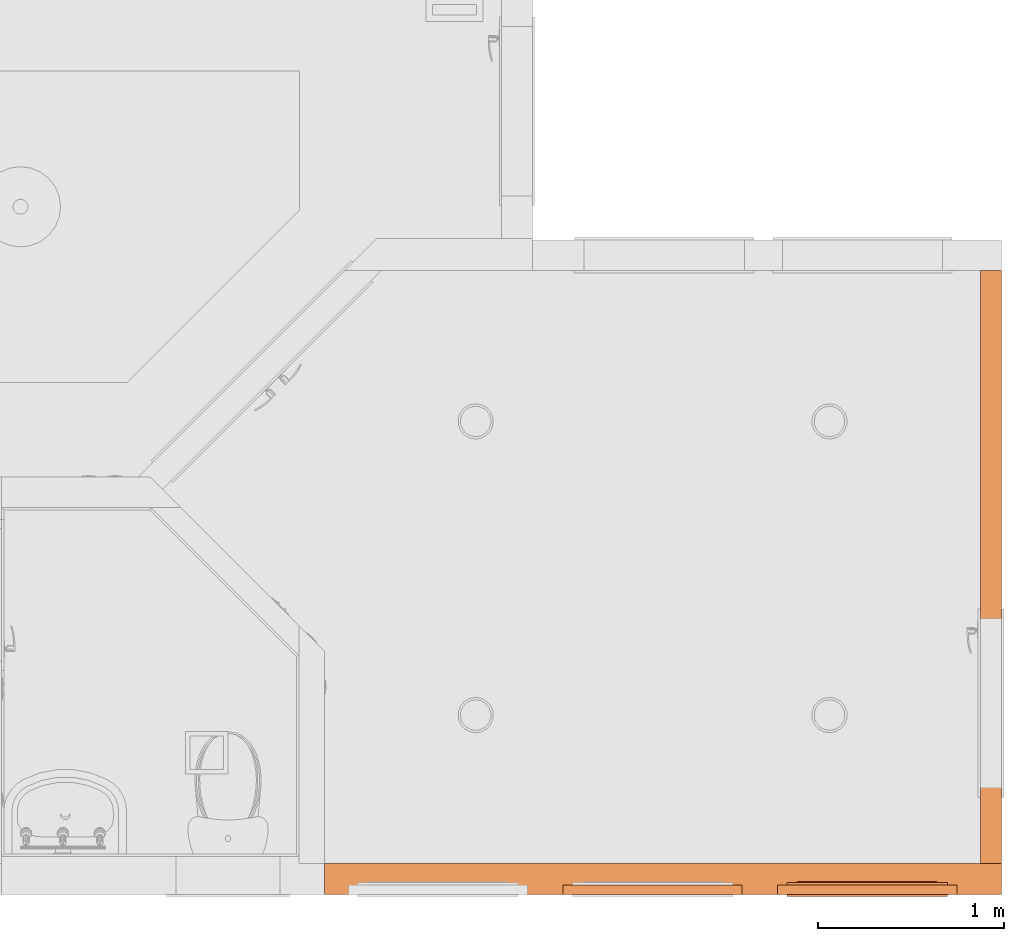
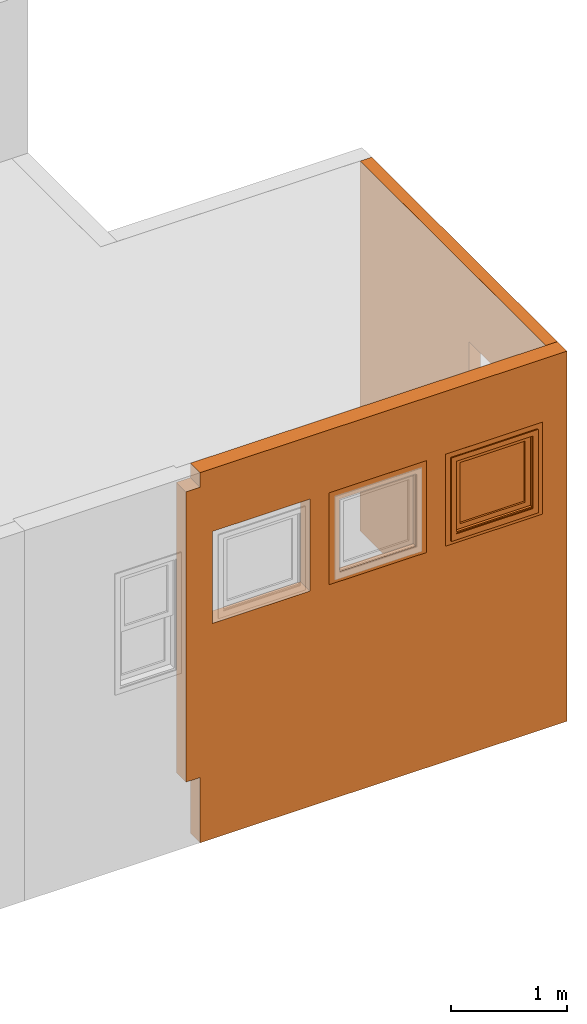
# One storey, part 99 of 103: 5 proxies.
"""IFC2X3 building model written with IfcOpenShell, lengths in inches."""

from ifc_helpers import new_model, entity, si_unit, converted_unit, derived_unit, money_unit, direction, frame, origin_with_axes, place, context, subcontext, project, spatial, faceted_brep, material, type_object, element, save


model = new_model("IFC2X3")

# Units and contexts
model_context = context("Model", 3, precision=0.00039370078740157, world=origin_with_axes(), true_north=direction((0.0, 1.0)))
plan_context = context("Plan", 3, precision=0.00039370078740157, world=origin_with_axes(), true_north=direction((0.0, 1.0)))
body_context = subcontext(model_context, "Body", "Model", "MODEL_VIEW")
ifc_project = project(units=[converted_unit("LENGTHUNIT", "INCH", entity("IfcPositiveLengthMeasure", 0.0254), si_unit("LENGTHUNIT", "METRE"), dimensions=[1, 0, 0, 0, 0, 0, 0]), converted_unit("AREAUNIT", "SQUARE_FOOT", entity("IfcPositiveLengthMeasure", 0.09290304), si_unit("AREAUNIT", "SQUARE_METRE"), dimensions=[2, 0, 0, 0, 0, 0, 0]), si_unit("PLANEANGLEUNIT", "RADIAN"), si_unit("SOLIDANGLEUNIT", "STERADIAN"), money_unit("USD"), converted_unit("TIMEUNIT", "Year", entity("IfcTimeMeasure", 31557600.0), si_unit("TIMEUNIT", "SECOND"), dimensions=[0, 0, 1, 0, 0, 0, 0]), si_unit("MASSUNIT", "GRAM", prefix="KILO"), si_unit("THERMODYNAMICTEMPERATUREUNIT", "DEGREE_CELSIUS"), si_unit("LUMINOUSINTENSITYUNIT", "LUMEN"), si_unit("ENERGYUNIT", "JOULE", prefix="MEGA"), derived_unit("SPECIFICHEATCAPACITYUNIT", [(si_unit("ENERGYUNIT", "JOULE"), 1), (si_unit("MASSUNIT", "GRAM", prefix="KILO"), -1), (si_unit("THERMODYNAMICTEMPERATUREUNIT", "KELVIN"), -1)])], contexts=[model_context, plan_context])

# Site, building, storey
site_placement = place(None, origin_with_axes())
site = spatial("IfcSite", under=ifc_project, at=site_placement, Name="Site", CompositionType="ELEMENT")
building_placement = place(site_placement, origin_with_axes())
building = spatial("IfcBuilding", under=site, at=building_placement, Name="Building", CompositionType="ELEMENT")
storey_placement = place(building_placement, frame((0.0, 0.0, 127.9999999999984), z_axis=(0.0, 0.0, 1.0), x_axis=(1.0, 0.0, 0.0)))
storey = spatial("IfcBuildingStorey", under=building, at=storey_placement, Name="Second Floor", CompositionType="ELEMENT", Elevation=128.0)

# Proxies
ifc_material = material(Name="Generic - Structural")
building_element_proxy_type_1 = type_object("IfcBuildingElementProxyType", Name="Generic - Structural 2\"", PredefinedType="NOTDEFINED")
proxy_1_placement = place(storey_placement, frame((472.4999994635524, 1.999999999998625, 61.99999999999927), z_axis=(0.0, 0.0, 1.0), x_axis=(-1.0, 0.0, 0.0)))
element("IfcBuildingElementProxy", 1, at=proxy_1_placement, inside=storey, type_object=building_element_proxy_type_1, material=ifc_material, Name="SW - 076", context=body_context, shape_type="Brep", body=[
    faceted_brep([(37.99999946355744, 1.999999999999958, 37.99999999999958), (37.99999946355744, 1.999999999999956, 0.0), (0.0, 1.999999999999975, 0.0), (0.0, 1.999999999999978, 37.99999999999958), (33.99999999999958, 1.999999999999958, 3.999999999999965), (33.99999999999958, 1.99999999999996, 33.99999999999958), (3.99999999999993, 1.999999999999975, 33.99999999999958), (3.99999999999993, 1.999999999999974, 3.999999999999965), (37.99999946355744, 0.0, 37.99999999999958), (37.99999946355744, 0.0, 0.0), (0.0, 0.0, 0.0), (0.0, 0.0, 37.99999999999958), (33.99999999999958, 0.0, 3.999999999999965), (33.99999999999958, 0.0, 33.99999999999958), (3.99999999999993, 0.0, 33.99999999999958), (3.99999999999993, 0.0, 3.999999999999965)], [[[0, 1, 2, 3], [4, 5, 6, 7]], [[8, 9, 1, 0]], [[1, 9, 10, 2]], [[11, 3, 2, 10]], [[8, 0, 3, 11]], [[12, 13, 5, 4]], [[13, 14, 6, 5]], [[14, 15, 7, 6]], [[15, 12, 4, 7]], [[9, 8, 11, 10], [12, 15, 14, 13]]]),
])
proxy_2_placement = place(storey_placement, frame((517.999999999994, 1.999999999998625, 61.99999999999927), z_axis=(0.0, 0.0, 1.0), x_axis=(-1.0, 0.0, 0.0)))
element("IfcBuildingElementProxy", 2, at=proxy_2_placement, inside=storey, type_object=building_element_proxy_type_1, material=ifc_material, Name="SW - 076", context=body_context, shape_type="Brep", body=[
    faceted_brep([(37.99999946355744, 1.999999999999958, 37.99999999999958), (37.99999946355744, 1.999999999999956, 0.0), (0.0, 1.999999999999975, 0.0), (0.0, 1.999999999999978, 37.99999999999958), (33.99999999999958, 1.999999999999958, 3.999999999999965), (33.99999999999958, 1.99999999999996, 33.99999999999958), (3.99999999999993, 1.999999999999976, 33.99999999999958), (3.99999999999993, 1.999999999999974, 3.999999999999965), (37.99999946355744, 0.0, 37.99999999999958), (37.99999946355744, 0.0, 0.0), (0.0, 0.0, 0.0), (0.0, 0.0, 37.99999999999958), (33.99999999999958, 0.0, 3.999999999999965), (33.99999999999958, 0.0, 33.99999999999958), (3.99999999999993, 0.0, 33.99999999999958), (3.99999999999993, 0.0, 3.999999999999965)], [[[0, 1, 2, 3], [4, 5, 6, 7]], [[8, 9, 1, 0]], [[1, 9, 10, 2]], [[11, 3, 2, 10]], [[8, 0, 3, 11]], [[12, 13, 5, 4]], [[13, 14, 6, 5]], [[14, 15, 7, 6]], [[15, 12, 4, 7]], [[9, 8, 11, 10], [12, 15, 14, 13]]]),
])
building_element_proxy_type_2 = type_object("IfcBuildingElementProxyType", Name="Generic - Structural 6 1/2\"", PredefinedType="NOTDEFINED")
proxy_3_placement = place(storey_placement, frame((522.9999999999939, 6.499999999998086, -26.99999999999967), z_axis=(0.0, 0.0, 1.0), x_axis=(-1.0, 0.0, 0.0)))
element("IfcBuildingElementProxy", 3, at=proxy_3_placement, inside=storey, type_object=building_element_proxy_type_2, material=ifc_material, Name="SW - 076", context=body_context, shape_type="Brep", body=[
    faceted_brep([(-4.500000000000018, 6.49999999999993, 152.9999999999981), (138.999999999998, 6.499999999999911, 152.9999999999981), (138.999999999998, 6.499999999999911, 146.9999999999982), (144.4999999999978, 6.49999999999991, 146.9999999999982), (144.4999999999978, 6.499999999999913, 26.99999999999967), (138.999999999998, 6.499999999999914, 26.99999999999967), (138.999999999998, 6.499999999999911, 0.0), (-4.500000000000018, 6.49999999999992, 0.0), (4.999999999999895, 6.499999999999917, 88.99999999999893), (42.9999999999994, 6.499999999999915, 88.99999999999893), (42.9999999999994, 6.499999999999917, 126.9999999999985), (4.999999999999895, 6.499999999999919, 126.9999999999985), (50.49999999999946, 6.499999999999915, 88.99999999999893), (88.49999999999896, 6.49999999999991, 88.99999999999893), (88.49999999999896, 6.499999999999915, 126.9999999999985), (50.49999999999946, 6.499999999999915, 126.9999999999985), (95.99999999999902, 6.49999999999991, 88.99999999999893), (133.9999999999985, 6.499999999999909, 88.99999999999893), (133.9999999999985, 6.49999999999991, 126.9999999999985), (95.99999999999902, 6.499999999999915, 126.9999999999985), (-4.500000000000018, 0.0, 152.9999999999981), (138.999999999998, 0.0, 152.9999999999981), (138.999999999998, 0.0, 146.9999999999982), (144.4999999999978, 0.0, 146.9999999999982), (144.4999999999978, 0.0, 26.99999999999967), (138.999999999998, 0.0, 26.99999999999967), (138.999999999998, 0.0, 0.0), (-4.500000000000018, 0.0, 0.0), (4.999999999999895, 0.0, 88.99999999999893), (42.9999999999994, 0.0, 88.99999999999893), (42.9999999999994, 0.0, 126.9999999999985), (4.999999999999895, 0.0, 126.9999999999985), (50.49999999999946, 0.0, 88.99999999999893), (88.49999999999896, 0.0, 88.99999999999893), (88.49999999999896, 0.0, 126.9999999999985), (50.49999999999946, 0.0, 126.9999999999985), (95.99999999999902, 0.0, 88.99999999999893), (133.9999999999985, 0.0, 88.99999999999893), (133.9999999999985, 0.0, 126.9999999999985), (95.99999999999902, 0.0, 126.9999999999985)], [[[0, 1, 2, 3, 4, 5, 6, 7], [8, 9, 10, 11], [12, 13, 14, 15], [16, 17, 18, 19]], [[0, 20, 21, 1]], [[22, 2, 1, 21]], [[3, 2, 22, 23]], [[24, 4, 3, 23]], [[5, 4, 24, 25]], [[6, 5, 25, 26]], [[27, 7, 6, 26]], [[7, 27, 20, 0]], [[8, 28, 29, 9]], [[9, 29, 30, 10]], [[10, 30, 31, 11]], [[11, 31, 28, 8]], [[12, 32, 33, 13]], [[13, 33, 34, 14]], [[14, 34, 35, 15]], [[15, 35, 32, 12]], [[16, 36, 37, 17]], [[17, 37, 38, 18]], [[18, 38, 39, 19]], [[19, 39, 36, 16]], [[25, 24, 23, 22, 21, 20, 27, 26], [30, 29, 28, 31], [34, 33, 32, 35], [38, 37, 36, 39]]]),
])
building_element_proxy_type_3 = type_object("IfcBuildingElementProxyType", Name="Generic - Structural 4 1/2\"", PredefinedType="NOTDEFINED")
proxy_4_placement = place(storey_placement, frame((522.9999999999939, 132.2499999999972, -26.99999999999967), z_axis=(0.0, 0.0, 1.0), x_axis=(0.0, -1.0, 0.0)))
element("IfcBuildingElementProxy", 4, at=proxy_4_placement, inside=storey, type_object=building_element_proxy_type_3, material=ifc_material, Name="SW - 075", context=body_context, shape_type="Brep", body=[
    faceted_brep([(125.7499999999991, 0.0, 0.0), (125.7499999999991, 0.0, 152.9999999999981), (0.0, 0.0, 152.9999999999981), (0.0, 0.0, 0.0), (109.7499999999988, 0.0, 26.99999999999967), (73.7499999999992, 0.0, 26.99999999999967), (73.7499999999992, 0.0, 122.9999999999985), (109.7499999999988, 0.0, 122.9999999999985), (125.7499999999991, 4.499999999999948, 0.0), (125.7499999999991, 4.499999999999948, 152.9999999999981), (0.0, 4.499999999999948, 152.9999999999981), (0.0, 4.499999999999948, 0.0), (109.7499999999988, 4.499999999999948, 26.99999999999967), (73.7499999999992, 4.499999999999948, 26.99999999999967), (73.7499999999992, 4.499999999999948, 122.9999999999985), (109.7499999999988, 4.499999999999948, 122.9999999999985)], [[[0, 1, 2, 3], [4, 5, 6, 7]], [[8, 9, 1, 0]], [[1, 9, 10, 2]], [[2, 10, 11, 3]], [[8, 0, 3, 11]], [[12, 13, 5, 4]], [[13, 14, 6, 5]], [[14, 15, 7, 6]], [[15, 12, 4, 7]], [[9, 8, 11, 10], [12, 15, 14, 13]]]),
])
building_element_proxy_type_4 = type_object("IfcBuildingElementProxyType", Name="W1 Casement", PredefinedType="NOTDEFINED")
proxy_5_placement = place(storey_placement, frame((513.999999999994, 1.999999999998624, 65.99999999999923), z_axis=(0.0, 0.0, 1.0), x_axis=(-1.0, 0.0, 0.0)))
element("IfcBuildingElementProxy", 5, at=proxy_5_placement, inside=storey, type_object=building_element_proxy_type_4, Name="WD - 001", context=body_context, shape_type="Brep", body=[
    faceted_brep([(-2.0, 2.499999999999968, -2.499999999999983), (0.0, 2.499999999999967, 0.0), (0.0, 1.999999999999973, 0.0), (-2.0, 1.999999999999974, -2.499999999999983), (-2.0, 2.499999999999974, 31.99999999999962), (0.0, 2.499999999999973, 29.99999999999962), (0.0, 1.999999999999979, 29.99999999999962), (-2.0, 1.99999999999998, 31.99999999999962)], [[[0, 1, 2, 3]], [[0, 4, 5, 1]], [[1, 5, 6, 2]], [[3, 2, 6, 7]], [[4, 0, 3, 7]], [[5, 4, 7, 6]]]),
    faceted_brep([(31.99999999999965, 2.499999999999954, 31.99999999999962), (29.99999999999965, 2.499999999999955, 29.99999999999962), (29.99999999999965, 1.999999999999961, 29.99999999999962), (31.99999999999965, 1.99999999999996, 31.99999999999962), (31.99999999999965, 2.499999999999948, -2.499999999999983), (29.99999999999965, 2.49999999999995, 0.0), (29.99999999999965, 1.999999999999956, 0.0), (31.99999999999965, 1.999999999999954, -2.499999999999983)], [[[0, 1, 2, 3]], [[0, 4, 5, 1]], [[1, 5, 6, 2]], [[3, 2, 6, 7]], [[4, 0, 3, 7]], [[5, 4, 7, 6]]]),
    faceted_brep([(31.99999999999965, 2.499999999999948, -2.499999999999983), (29.99999999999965, 2.49999999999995, 0.0), (29.99999999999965, 1.999999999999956, 0.0), (31.99999999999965, 1.999999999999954, -2.499999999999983), (-2.0, 2.499999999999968, -2.499999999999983), (0.0, 2.499999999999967, 0.0), (0.0, 1.999999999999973, 0.0), (-2.0, 1.999999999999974, -2.499999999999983)], [[[0, 1, 2, 3]], [[0, 4, 5, 1]], [[1, 5, 6, 2]], [[3, 2, 6, 7]], [[4, 0, 3, 7]], [[5, 4, 7, 6]]]),
    faceted_brep([(-2.0, 2.499999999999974, 31.99999999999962), (0.0, 2.499999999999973, 29.99999999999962), (0.0, 1.999999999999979, 29.99999999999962), (-2.0, 1.99999999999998, 31.99999999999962), (31.99999999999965, 2.499999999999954, 31.99999999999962), (29.99999999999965, 2.499999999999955, 29.99999999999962), (29.99999999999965, 1.999999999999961, 29.99999999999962), (31.99999999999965, 1.99999999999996, 31.99999999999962)], [[[0, 1, 2, 3]], [[0, 4, 5, 1]], [[1, 5, 6, 2]], [[3, 2, 6, 7]], [[4, 0, 3, 7]], [[5, 4, 7, 6]]]),
    faceted_brep([(-2.0, -0.4999999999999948, -1.499999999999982), (-2.0, 0.0, -1.499999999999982), (0.0, 0.0, 0.4999999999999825), (0.0, -0.4999999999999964, 0.4999999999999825), (-2.0, -0.4999999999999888, 31.99999999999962), (-2.0, 0.0, 31.99999999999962), (0.0, 0.0, 29.99999999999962), (0.0, -0.499999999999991, 29.99999999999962)], [[[0, 1, 2, 3]], [[4, 5, 1, 0]], [[1, 5, 6, 2]], [[3, 2, 6, 7]], [[0, 3, 7, 4]], [[7, 6, 5, 4]]]),
    faceted_brep([(31.99999999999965, -0.500000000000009, 31.99999999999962), (31.99999999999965, 0.0, 31.99999999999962), (29.99999999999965, 0.0, 29.99999999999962), (29.99999999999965, -0.5000000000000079, 29.99999999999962), (31.99999999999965, -0.500000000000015, -1.499999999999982), (31.99999999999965, 0.0, -1.499999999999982), (29.99999999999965, 0.0, 0.4999999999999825), (29.99999999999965, -0.5000000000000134, 0.4999999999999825)], [[[0, 1, 2, 3]], [[4, 5, 1, 0]], [[1, 5, 6, 2]], [[3, 2, 6, 7]], [[0, 3, 7, 4]], [[7, 6, 5, 4]]]),
    faceted_brep([(31.99999999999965, -0.500000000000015, -1.499999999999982), (31.99999999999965, 0.0, -1.499999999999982), (29.99999999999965, 0.0, 0.4999999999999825), (29.99999999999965, -0.5000000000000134, 0.4999999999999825), (-2.0, -0.4999999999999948, -1.499999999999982), (-2.0, 0.0, -1.499999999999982), (0.0, 0.0, 0.4999999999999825), (0.0, -0.4999999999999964, 0.4999999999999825)], [[[0, 1, 2, 3]], [[4, 5, 1, 0]], [[1, 5, 6, 2]], [[3, 2, 6, 7]], [[0, 3, 7, 4]], [[7, 6, 5, 4]]]),
    faceted_brep([(-2.0, -0.4999999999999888, 31.99999999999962), (-2.0, 0.0, 31.99999999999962), (0.0, 0.0, 29.99999999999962), (0.0, -0.499999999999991, 29.99999999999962), (31.99999999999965, -0.500000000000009, 31.99999999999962), (31.99999999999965, 0.0, 31.99999999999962), (29.99999999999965, 0.0, 29.99999999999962), (29.99999999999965, -0.5000000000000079, 29.99999999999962)], [[[0, 1, 2, 3]], [[4, 5, 1, 0]], [[1, 5, 6, 2]], [[3, 2, 6, 7]], [[0, 3, 7, 4]], [[7, 6, 5, 4]]]),
    faceted_brep([(0.2499999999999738, 1.999999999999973, 0.7539370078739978), (0.0, 1.999999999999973, 0.7539370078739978), (0.0, 1.999999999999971, 29.49606299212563), (0.2499999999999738, 1.999999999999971, 29.49606299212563), (0.2499999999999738, 0.0, 0.7539370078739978), (0.0, 0.0, 0.7539370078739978), (0.0, 0.0, 29.49606299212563), (0.2499999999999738, 0.0, 29.49606299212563)], [[[0, 1, 2, 3]], [[4, 5, 1, 0]], [[2, 1, 5, 6]], [[3, 2, 6, 7]], [[7, 4, 0, 3]], [[7, 6, 5, 4]]]),
    faceted_brep([(29.74999999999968, 0.0, 29.49606299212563), (29.99999999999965, 0.0, 29.49606299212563), (29.99999999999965, 1.999999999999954, 29.49606299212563), (29.74999999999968, 1.999999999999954, 29.49606299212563), (29.74999999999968, 0.0, 0.7539370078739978), (29.99999999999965, 0.0, 0.7539370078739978), (29.99999999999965, 1.999999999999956, 0.7539370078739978), (29.74999999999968, 1.999999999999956, 0.7539370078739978)], [[[0, 1, 2, 3]], [[4, 5, 1, 0]], [[6, 2, 1, 5]], [[3, 2, 6, 7]], [[7, 4, 0, 3]], [[7, 6, 5, 4]]]),
    faceted_brep([(29.74999999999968, 0.0, 0.7539370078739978), (29.99999999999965, 0.0, 0.7539370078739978), (29.99999999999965, 1.999999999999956, 0.7539370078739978), (29.74999999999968, 1.999999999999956, 0.7539370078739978), (29.74999999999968, 0.0, 0.4999999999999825), (0.2499999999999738, 0.0, 0.4999999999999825), (0.2499999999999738, 0.0, 0.7539370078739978), (0.0, 0.0, 0.7539370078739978), (0.0, 0.0, 0.0), (29.99999999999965, 0.0, 0.0), (29.99999999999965, 1.999999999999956, 0.0), (0.2499999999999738, 1.999999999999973, 0.4999999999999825), (29.74999999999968, 1.999999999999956, 0.4999999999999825), (0.0, 1.999999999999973, 0.0), (0.0, 1.999999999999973, 0.7539370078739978), (0.2499999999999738, 1.999999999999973, 0.7539370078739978)], [[[0, 1, 2, 3]], [[4, 5, 6, 7, 8, 9, 1, 0]], [[10, 2, 1, 9]], [[11, 12, 3, 2, 10, 13, 14, 15]], [[12, 4, 0, 3]], [[11, 5, 4, 12]], [[6, 5, 11, 15]], [[15, 14, 7, 6]], [[14, 13, 8, 7]], [[13, 10, 9, 8]]]),
    faceted_brep([(0.2499999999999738, 1.999999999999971, 29.49606299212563), (0.0, 1.999999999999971, 29.49606299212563), (0.0, 1.999999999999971, 29.99999999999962), (29.99999999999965, 1.999999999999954, 29.99999999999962), (29.99999999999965, 1.999999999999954, 29.49606299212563), (29.74999999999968, 1.999999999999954, 29.49606299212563), (29.74999999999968, 1.999999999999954, 29.74999999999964), (0.2499999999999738, 1.999999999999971, 29.74999999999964), (0.2499999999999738, 0.0, 29.49606299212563), (0.0, 0.0, 29.49606299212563), (0.0, 0.0, 29.99999999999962), (29.99999999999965, 0.0, 29.99999999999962), (29.99999999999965, 0.0, 29.49606299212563), (29.74999999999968, 0.0, 29.49606299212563), (29.74999999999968, 0.0, 29.74999999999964), (0.2499999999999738, 0.0, 29.74999999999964)], [[[0, 1, 2, 3, 4, 5, 6, 7]], [[8, 9, 1, 0]], [[2, 1, 9, 10]], [[3, 2, 10, 11]], [[4, 3, 11, 12]], [[5, 4, 12, 13]], [[5, 13, 14, 6]], [[6, 14, 15, 7]], [[7, 15, 8, 0]], [[15, 14, 13, 12, 11, 10, 9, 8]]]),
    faceted_brep([(2.249999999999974, -0.7499999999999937, 2.499999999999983), (2.249999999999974, 0.1249999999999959, 2.499999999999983), (2.249999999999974, 0.1249999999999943, 27.74999999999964), (2.249999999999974, -0.7499999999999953, 27.74999999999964), (0.2499999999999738, -0.7499999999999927, 2.499999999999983), (0.2499999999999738, 0.1249999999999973, 2.499999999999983), (0.2499999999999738, 0.1249999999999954, 27.74999999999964), (0.2499999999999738, -0.7499999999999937, 27.74999999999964)], [[[0, 1, 2, 3]], [[4, 5, 1, 0]], [[1, 5, 6, 2]], [[3, 2, 6, 7]], [[0, 3, 7, 4]], [[7, 6, 5, 4]]]),
    faceted_brep([(29.74999999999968, -0.7500000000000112, 2.499999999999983), (29.74999999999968, 0.1249999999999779, 2.499999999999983), (29.74999999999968, 0.1249999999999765, 27.74999999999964), (29.74999999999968, -0.7500000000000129, 27.74999999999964), (27.74999999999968, -0.7500000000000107, 2.499999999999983), (27.74999999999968, 0.1249999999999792, 2.499999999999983), (27.74999999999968, 0.1249999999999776, 27.74999999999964), (27.74999999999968, -0.7500000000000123, 27.74999999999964)], [[[0, 1, 2, 3]], [[4, 5, 1, 0]], [[1, 5, 6, 2]], [[3, 2, 6, 7]], [[0, 3, 7, 4]], [[7, 6, 5, 4]]]),
    faceted_brep([(29.74999999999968, -0.7500000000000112, 0.4999999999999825), (29.74999999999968, 0.1249999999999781, 0.4999999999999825), (29.74999999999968, 0.1249999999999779, 2.499999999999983), (29.74999999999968, -0.7500000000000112, 2.499999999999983), (0.2499999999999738, -0.7499999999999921, 0.4999999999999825), (0.2499999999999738, 0.124999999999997, 0.4999999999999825), (0.2499999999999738, 0.1249999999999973, 2.499999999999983), (2.249999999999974, 0.1249999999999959, 2.499999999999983), (13.99999999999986, 0.124999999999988, 2.499999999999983), (15.99999999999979, 0.1249999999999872, 2.499999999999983), (27.74999999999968, 0.1249999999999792, 2.499999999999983), (27.74999999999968, -0.7500000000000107, 2.499999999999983), (15.99999999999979, -0.750000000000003, 2.499999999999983), (13.99999999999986, -0.7500000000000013, 2.499999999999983), (2.249999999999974, -0.7499999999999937, 2.499999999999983), (0.2499999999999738, -0.7499999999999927, 2.499999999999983)], [[[0, 1, 2, 3]], [[4, 5, 1, 0]], [[1, 5, 6, 7, 8, 9, 10, 2]], [[3, 2, 10, 11]], [[0, 3, 11, 12, 13, 14, 15, 4]], [[15, 6, 5, 4]], [[14, 7, 6, 15]], [[13, 8, 7, 14]], [[12, 9, 8, 13]], [[11, 10, 9, 12]]]),
    faceted_brep([(0.2499999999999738, -0.7499999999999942, 29.74999999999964), (0.2499999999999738, 0.1249999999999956, 29.74999999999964), (0.2499999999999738, 0.1249999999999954, 27.74999999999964), (0.2499999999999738, -0.7499999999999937, 27.74999999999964), (29.74999999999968, -0.7500000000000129, 29.74999999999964), (29.74999999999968, 0.1249999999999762, 29.74999999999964), (29.74999999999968, 0.1249999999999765, 27.74999999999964), (27.74999999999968, 0.1249999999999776, 27.74999999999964), (15.99999999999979, 0.1249999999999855, 27.74999999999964), (13.99999999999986, 0.1249999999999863, 27.74999999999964), (2.249999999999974, 0.1249999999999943, 27.74999999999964), (2.249999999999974, -0.7499999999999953, 27.74999999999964), (13.99999999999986, -0.750000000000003, 27.74999999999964), (15.99999999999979, -0.7500000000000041, 27.74999999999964), (27.74999999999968, -0.7500000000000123, 27.74999999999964), (29.74999999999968, -0.7500000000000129, 27.74999999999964)], [[[0, 1, 2, 3]], [[4, 5, 1, 0]], [[1, 5, 6, 7, 8, 9, 10, 2]], [[3, 2, 10, 11]], [[0, 3, 11, 12, 13, 14, 15, 4]], [[15, 6, 5, 4]], [[14, 7, 6, 15]], [[13, 8, 7, 14]], [[12, 9, 8, 13]], [[11, 10, 9, 12]]]),
    faceted_brep([(2.249999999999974, 0.1249999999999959, 2.499999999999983), (2.249999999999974, 0.999999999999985, 2.499999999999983), (2.249999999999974, 0.9999999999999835, 27.74999999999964), (2.249999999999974, 0.1249999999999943, 27.74999999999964), (0.2499999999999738, 0.1249999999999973, 2.499999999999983), (0.2499999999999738, 0.9999999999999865, 2.499999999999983), (0.2499999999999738, 0.999999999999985, 27.74999999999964), (0.2499999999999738, 0.1249999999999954, 27.74999999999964)], [[[0, 1, 2, 3]], [[4, 5, 1, 0]], [[1, 5, 6, 2]], [[3, 2, 6, 7]], [[0, 3, 7, 4]], [[7, 6, 5, 4]]]),
    faceted_brep([(29.74999999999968, 0.1249999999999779, 2.499999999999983), (29.74999999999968, 0.9999999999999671, 2.499999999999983), (29.74999999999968, 0.9999999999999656, 27.74999999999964), (29.74999999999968, 0.1249999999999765, 27.74999999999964), (27.74999999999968, 0.1249999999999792, 2.499999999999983), (27.74999999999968, 0.9999999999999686, 2.499999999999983), (27.74999999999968, 0.9999999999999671, 27.74999999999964), (27.74999999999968, 0.1249999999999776, 27.74999999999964)], [[[0, 1, 2, 3]], [[4, 5, 1, 0]], [[1, 5, 6, 2]], [[3, 2, 6, 7]], [[0, 3, 7, 4]], [[7, 6, 5, 4]]]),
    faceted_brep([(29.74999999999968, 0.1249999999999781, 0.4999999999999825), (29.74999999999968, 0.9999999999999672, 0.4999999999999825), (29.74999999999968, 0.9999999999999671, 2.499999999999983), (29.74999999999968, 0.1249999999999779, 2.499999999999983), (0.2499999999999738, 0.124999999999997, 0.4999999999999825), (0.2499999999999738, 0.9999999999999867, 0.4999999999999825), (0.2499999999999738, 0.9999999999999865, 2.499999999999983), (2.249999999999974, 0.999999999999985, 2.499999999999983), (13.99999999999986, 0.9999999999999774, 2.499999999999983), (15.99999999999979, 0.9999999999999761, 2.499999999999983), (27.74999999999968, 0.9999999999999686, 2.499999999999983), (27.74999999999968, 0.1249999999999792, 2.499999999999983), (15.99999999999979, 0.1249999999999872, 2.499999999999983), (13.99999999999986, 0.124999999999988, 2.499999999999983), (2.249999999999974, 0.1249999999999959, 2.499999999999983), (0.2499999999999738, 0.1249999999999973, 2.499999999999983)], [[[0, 1, 2, 3]], [[4, 5, 1, 0]], [[1, 5, 6, 7, 8, 9, 10, 2]], [[3, 2, 10, 11]], [[0, 3, 11, 12, 13, 14, 15, 4]], [[15, 6, 5, 4]], [[14, 7, 6, 15]], [[13, 8, 7, 14]], [[12, 9, 8, 13]], [[11, 10, 9, 12]]]),
    faceted_brep([(0.2499999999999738, 0.1249999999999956, 29.74999999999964), (0.2499999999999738, 0.9999999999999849, 29.74999999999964), (0.2499999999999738, 0.999999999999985, 27.74999999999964), (0.2499999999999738, 0.1249999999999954, 27.74999999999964), (29.74999999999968, 0.1249999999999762, 29.74999999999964), (29.74999999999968, 0.9999999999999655, 29.74999999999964), (29.74999999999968, 0.9999999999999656, 27.74999999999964), (27.74999999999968, 0.9999999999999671, 27.74999999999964), (15.99999999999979, 0.9999999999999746, 27.74999999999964), (13.99999999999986, 0.9999999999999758, 27.74999999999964), (2.249999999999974, 0.9999999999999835, 27.74999999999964), (2.249999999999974, 0.1249999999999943, 27.74999999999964), (13.99999999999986, 0.1249999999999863, 27.74999999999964), (15.99999999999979, 0.1249999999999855, 27.74999999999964), (27.74999999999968, 0.1249999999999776, 27.74999999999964), (29.74999999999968, 0.1249999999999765, 27.74999999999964)], [[[0, 1, 2, 3]], [[4, 5, 1, 0]], [[1, 5, 6, 7, 8, 9, 10, 2]], [[3, 2, 10, 11]], [[0, 3, 11, 12, 13, 14, 15, 4]], [[15, 6, 5, 4]], [[14, 7, 6, 15]], [[13, 8, 7, 14]], [[12, 9, 8, 13]], [[11, 10, 9, 12]]]),
    faceted_brep([(2.249999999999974, 0.0, 2.499999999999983), (2.249999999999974, 0.2499999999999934, 2.499999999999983), (27.74999999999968, 0.2499999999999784, 2.499999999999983), (27.74999999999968, 0.0, 2.499999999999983), (2.249999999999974, 0.0, 27.74999999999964), (2.249999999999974, 0.2499999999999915, 27.74999999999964), (27.74999999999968, 0.2499999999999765, 27.74999999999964), (27.74999999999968, 0.0, 27.74999999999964)], [[[0, 1, 2, 3]], [[4, 5, 1, 0]], [[1, 5, 6, 2]], [[3, 2, 6, 7]], [[0, 3, 7, 4]], [[7, 6, 5, 4]]]),
])

save(model, "model.ifc")
